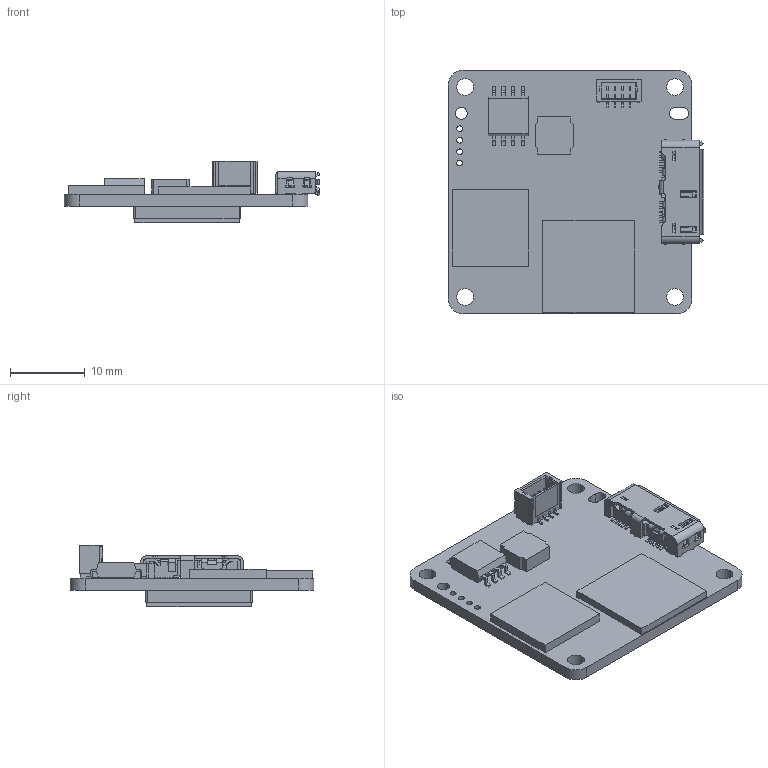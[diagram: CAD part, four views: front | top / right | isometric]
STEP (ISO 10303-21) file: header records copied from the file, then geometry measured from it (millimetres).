
FILE_DESCRIPTION((''),'2;1');
FILE_NAME('ASM0002_ASM','2021-12-08T11:27:21',('wangyijun6'),(''),'CREO PARAMETRIC BY PTC INC, 2017260','CREO PARAMETRIC BY PTC INC, 2017260','');
FILE_SCHEMA(('CONFIG_CONTROL_DESIGN'));
Length unit declared in the file: millimetre
Products named in the file (1): ASM0002_ASM
Bounding box: 34.07 x 32.5 x 8.22 mm (x, y, z)
Volume: 2477.9 mm3; surface area: 3883.6 mm2
Topology: 2 solids, 3 shells, 1351 faces, 4192 edges, 2730 vertices
Faces by surface type: plane 906, cylinder 416, cone 12, bspline 9, torus 8
Entity records: 47231 total; most frequent: CARTESIAN_POINT 9092, ORIENTED_EDGE 8384, DIRECTION 7603, EDGE_CURVE 4192, VECTOR 3161, LINE 3161, VERTEX_POINT 2730, AXIS2_PLACEMENT_3D 2221
